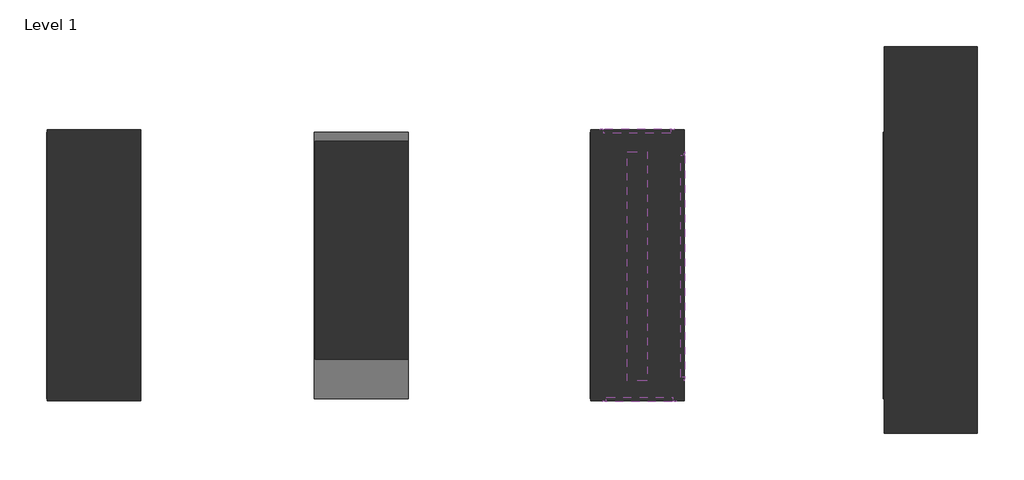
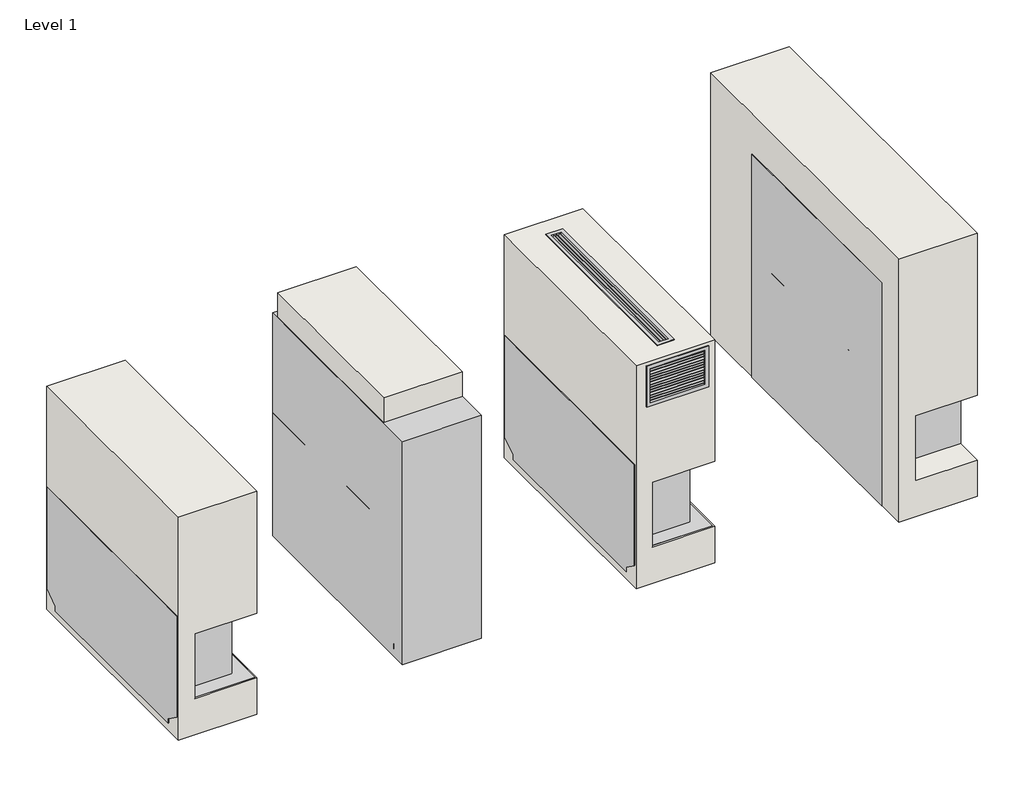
# One storey: 4 air terminals, 4 proxies, 4 walls.
"""IFC4 building model written with IfcOpenShell, lengths in millimetres."""

from ifc_helpers import new_model, si_unit, frame, origin, origin_with_axes, place, context, project, spatial, polyline, outline, extrude, faceted_brep, transform, mapped, element, save
from components import vent_3c922fcf, vent_1f9427f6, specialty_equipment_0dc5f05a, specialty_equipment_93f9bb94

model = new_model("IFC4")

# Units and contexts
model_context = context("Model", 3, world=origin())
ifc_project = project(units=[si_unit("LENGTHUNIT", "METRE", prefix="MILLI")], contexts=[model_context])

# Site, building, storey
site = spatial("IfcSite", under=ifc_project)
building = spatial("IfcBuilding", under=site)
storey = spatial("IfcBuildingStorey", under=building, Name="Level 1", Elevation=0.0)

# Air terminals
placement = place(None, origin())
vent_shape = vent_3c922fcf(model_context)
element("IfcAirTerminal", 1, ObjectType="Fire-Products_Fire-Protection_Regency-Fireplace_Ventilation-Grill : Vent", at=placement, inside=storey, context=model_context, shape_type="MappedRepresentation", body=[
    mapped(vent_shape, transform((-2434.4907065, 3478.5237344, 1600.0), x_axis=(0.0, 1.0, 0.0), y_axis=(-1.0, 0.0, 0.0), z_axis=(0.0, 0.0, 1.0))),
])
element("IfcAirTerminal", 2, ObjectType="Fire-Products_Fire-Protection_Regency-Fireplace_Ventilation-Grill : Vent", at=placement, inside=storey, context=model_context, shape_type="MappedRepresentation", body=[
    mapped(vent_shape, transform((-2167.7907065, 3478.5237344, 1516.1), x_axis=(0.0, 1.0, 0.0), y_axis=(0.0, 0.0, 1.0), z_axis=(1.0, 0.0, 0.0))),
])
vent_2_shape = vent_1f9427f6(model_context)
element("IfcAirTerminal", 3, ObjectType="Fire-Products_Fire-Protection_Regency-Fireplace_Ventilation-Grill : Vent", at=placement, inside=storey, context=model_context, shape_type="MappedRepresentation", body=[
    mapped(vent_2_shape, transform((-2421.7907065, 2708.8237344, 1427.2), x_axis=(1.0, 0.0, 0.0), y_axis=(0.0, 0.0, 1.0), z_axis=(0.0, -1.0, 0.0))),
])
element("IfcAirTerminal", 4, ObjectType="Fire-Products_Fire-Protection_Regency-Fireplace_Ventilation-Grill : Vent", at=placement, inside=storey, context=model_context, shape_type="MappedRepresentation", body=[
    mapped(vent_2_shape, transform((-2434.4907065, 4258.2237344, 1427.2), x_axis=(1.0, 0.0, 0.0), y_axis=(0.0, 0.0, -1.0), z_axis=(0.0, 1.0, 0.0))),
])

# Proxies
specialty_equipment_shape = specialty_equipment_0dc5f05a(model_context)
element("IfcBuildingElementProxy", 5, Name="HVAC_Fireplaces_Regency-Fireplace_San-Francisco-gas-fireplace_CB50E : CB50E-NG1", ObjectType="HVAC_Fireplaces_Regency-Fireplace_San-Francisco-gas-fireplace_CB50E : CB50E-NG1", at=placement, inside=storey, context=model_context, shape_type="MappedRepresentation", body=[
    mapped(specialty_equipment_shape, transform((-5273.4487065, 3483.5237344, 0.0), x_axis=(0.0, 1.0, 0.0), y_axis=(0.0, 0.0, 1.0), z_axis=(1.0, 0.0, 0.0))),
])
element("IfcBuildingElementProxy", 6, Name="HVAC_Fireplaces_Regency-Fireplace_San-Francisco-gas-fireplace_CB50E : CB50E-NG1", ObjectType="HVAC_Fireplaces_Regency-Fireplace_San-Francisco-gas-fireplace_CB50E : CB50E-NG1", at=placement, inside=storey, context=model_context, shape_type="MappedRepresentation", body=[
    mapped(specialty_equipment_shape, transform((-2167.7907065, 3483.5237344, 0.0), x_axis=(0.0, 1.0, 0.0), y_axis=(0.0, 0.0, 1.0), z_axis=(1.0, 0.0, 0.0))),
])
specialty_equipment_2_shape = specialty_equipment_93f9bb94(model_context)
element("IfcBuildingElementProxy", 7, Name="HVAC_Fireplaces_Regency-Fireplace_San-Francisco-gas-fireplace_CB50E : CB50E-NG1", ObjectType="HVAC_Fireplaces_Regency-Fireplace_San-Francisco-gas-fireplace_CB50E : CB50E-NG1", at=placement, inside=storey, context=model_context, shape_type="MappedRepresentation", body=[
    mapped(specialty_equipment_2_shape, transform((-3742.5533578, 3483.5237344, 0.0), x_axis=(0.0, 1.0, 0.0), y_axis=(0.0, 0.0, 1.0), z_axis=(1.0, 0.0, 0.0))),
])
element("IfcBuildingElementProxy", 8, Name="HVAC_Fireplaces_Regency-Fireplace_San-Francisco-gas-fireplace_CB50E : CB50E-NG1", ObjectType="HVAC_Fireplaces_Regency-Fireplace_San-Francisco-gas-fireplace_CB50E : CB50E-NG1", at=placement, inside=storey, context=model_context, shape_type="MappedRepresentation", body=[
    mapped(specialty_equipment_2_shape, transform((-490.8827065, 3483.5237344, 0.0), x_axis=(0.0, 1.0, 0.0), y_axis=(0.0, 0.0, 1.0), z_axis=(1.0, 0.0, 0.0))),
])

# Walls
element("IfcWall", 9, ObjectType="Generic - 30\"", at=placement, inside=storey, context=model_context, shape_type="Brep", body=[
    faceted_brep([(-5806.8487065, 4258.2237344, 0.0), (-5806.8487065, 2708.8237344, 0.0), (-5806.8487065, 2708.8237344, 1600.0), (-5806.8487065, 4258.2237344, 1600.0), (-5273.4487065, 2708.8237344, 0.0), (-5273.4487065, 4258.2237344, 0.0), (-5273.4487065, 4258.2237344, 260.0), (-5273.4487065, 2708.8237344, 260.0), (-5273.4487065, 4258.2237344, 1600.0), (-5273.4487065, 2708.8237344, 1600.0), (-5273.4487065, 2708.8237344, 726.0), (-5273.4487065, 4258.2237344, 726.0), (-5278.4487065, 2721.5237344, 0.0), (-5278.4487065, 4245.5237344, 0.0), (-5793.4487065, 4245.5237344, 0.0), (-5793.4487065, 2721.5237344, 0.0), (-5696.4487065, 2708.8237344, 260.0), (-5696.4487065, 2708.8237344, 726.0), (-5696.4487065, 4258.2237344, 726.0), (-5696.4487065, 4258.2237344, 260.0), (-5278.4487065, 4245.5237344, 260.0), (-5278.4487065, 2721.5237344, 260.0), (-5696.4487065, 2721.5237344, 260.0), (-5696.4487065, 4245.5237344, 260.0), (-5278.4487065, 2721.5237344, 940.0), (-5278.4487065, 4245.5237344, 940.0), (-5278.4487065, 4245.5237344, 726.0), (-5278.4487065, 2721.5237344, 726.0), (-5793.4487065, 4245.5237344, 940.0), (-5793.4487065, 2721.5237344, 940.0), (-5696.4487065, 2721.5237344, 726.0), (-5696.4487065, 4245.5237344, 726.0)], [[[0, 1, 2, 3]], [[4, 5, 6, 7]], [[8, 9, 10, 11]], [[1, 0, 5, 4], [12, 13, 14, 15]], [[2, 1, 4, 7, 16, 17, 10, 9]], [[3, 2, 9, 8]], [[0, 3, 8, 11, 18, 19, 6, 5]], [[20, 21, 22, 16, 7, 6, 19, 23]], [[12, 21, 20, 13]], [[24, 25, 26, 27]], [[28, 29, 15, 14]], [[25, 24, 29, 28]], [[21, 12, 15, 29, 24, 27, 30, 22]], [[13, 20, 23, 31, 26, 25, 28, 14]], [[22, 30, 17, 16]], [[31, 23, 19, 18]], [[27, 26, 31, 18, 11, 10, 17, 30]]]),
])
element("IfcWall", 10, ObjectType="Generic - 30\"", at=placement, inside=storey, context=model_context, shape_type="Brep", body=[
    faceted_brep([(-2701.1907065, 4258.2237344, 0.0), (-2701.1907065, 2708.8237344, 0.0), (-2701.1907065, 2708.8237344, 1600.0), (-2701.1907065, 4258.2237344, 1600.0), (-2167.7907065, 2708.8237344, 0.0), (-2167.7907065, 4258.2237344, 0.0), (-2167.7907065, 4258.2237344, 260.0), (-2167.7907065, 2708.8237344, 260.0), (-2167.7907065, 4258.2237344, 1600.0), (-2167.7907065, 2708.8237344, 1600.0), (-2167.7907065, 2708.8237344, 726.0), (-2167.7907065, 4258.2237344, 726.0), (-2167.7907065, 2843.5237344, 1554.2), (-2167.7907065, 4113.5237344, 1554.2), (-2167.7907065, 4113.5237344, 1478.0), (-2167.7907065, 2843.5237344, 1478.0), (-2172.7907065, 2721.5237344, 0.0), (-2172.7907065, 4245.5237344, 0.0), (-2687.7907065, 4245.5237344, 0.0), (-2687.7907065, 2721.5237344, 0.0), (-2590.7907065, 2708.8237344, 260.0), (-2590.7907065, 2708.8237344, 726.0), (-2612.2907065, 2708.8237344, 1554.2), (-2231.2907065, 2708.8237344, 1554.2), (-2231.2907065, 2708.8237344, 1300.2), (-2612.2907065, 2708.8237344, 1300.2), (-2472.5907065, 2843.5237344, 1600.0), (-2472.5907065, 4113.5237344, 1600.0), (-2396.3907065, 4113.5237344, 1600.0), (-2396.3907065, 2843.5237344, 1600.0), (-2590.7907065, 4258.2237344, 726.0), (-2590.7907065, 4258.2237344, 260.0), (-2624.9907065, 4258.2237344, 1300.2), (-2243.9907065, 4258.2237344, 1300.2), (-2243.9907065, 4258.2237344, 1554.2), (-2624.9907065, 4258.2237344, 1554.2), (-2172.7907065, 4245.5237344, 260.0), (-2172.7907065, 2721.5237344, 260.0), (-2590.7907065, 2721.5237344, 260.0), (-2590.7907065, 4245.5237344, 260.0), (-2172.7907065, 4245.5237344, 940.0), (-2172.7907065, 4245.5237344, 726.0), (-2172.7907065, 2721.5237344, 726.0), (-2172.7907065, 2721.5237344, 940.0), (-2687.7907065, 4245.5237344, 940.0), (-2687.7907065, 2721.5237344, 940.0), (-2590.7907065, 2721.5237344, 726.0), (-2590.7907065, 4245.5237344, 726.0), (-2612.2907065, 3008.8237344, 1554.2), (-2612.2907065, 3008.8237344, 1300.2), (-2472.5907065, 3008.8237344, 1300.2), (-2472.5907065, 3008.8237344, 1554.2), (-2396.3907065, 3008.8237344, 1300.2), (-2231.2907065, 3008.8237344, 1300.2), (-2231.2907065, 3008.8237344, 1478.0), (-2396.3907065, 3008.8237344, 1478.0), (-2396.3907065, 2843.5237344, 1300.2), (-2472.5907065, 2843.5237344, 1300.2), (-2231.2907065, 2843.5237344, 1554.2), (-2231.2907065, 2843.5237344, 1478.0), (-2472.5907065, 4113.5237344, 1300.0), (-2472.5907065, 2843.5237344, 1300.0), (-2396.3907065, 2843.5237344, 1300.0), (-2396.3907065, 4113.5237344, 1300.0), (-2472.5907065, 4113.5237344, 1300.2), (-2472.5907065, 3958.2237344, 1300.2), (-2472.5907065, 3958.2237344, 1554.2), (-2472.5907065, 4113.5237344, 1554.2), (-2472.5907065, 2843.5237344, 1554.2), (-2396.3907065, 2843.5237344, 1554.2), (-2396.3907065, 3958.2237344, 1478.0), (-2396.3907065, 3958.2237344, 1300.2), (-2396.3907065, 4113.5237344, 1300.2), (-2396.3907065, 4113.5237344, 1554.2), (-2243.9907065, 4113.5237344, 1554.2), (-2243.9907065, 4113.5237344, 1478.0), (-2624.9907065, 3958.2237344, 1554.2), (-2243.9907065, 3958.2237344, 1478.0), (-2624.9907065, 3958.2237344, 1300.2), (-2243.9907065, 3958.2237344, 1300.2)], [[[0, 1, 2, 3]], [[4, 5, 6, 7]], [[8, 9, 10, 11], [12, 13, 14, 15]], [[1, 0, 5, 4], [16, 17, 18, 19]], [[2, 1, 4, 7, 20, 21, 10, 9], [22, 23, 24, 25]], [[3, 2, 9, 8], [26, 27, 28, 29]], [[0, 3, 8, 11, 30, 31, 6, 5], [32, 33, 34, 35]], [[36, 37, 38, 20, 7, 6, 31, 39]], [[37, 36, 17, 16]], [[40, 41, 42, 43]], [[44, 45, 19, 18]], [[40, 43, 45, 44]], [[46, 38, 37, 16, 19, 45, 43, 42]], [[47, 41, 40, 44, 18, 17, 36, 39]], [[38, 46, 21, 20]], [[47, 39, 31, 30]], [[41, 47, 30, 11, 10, 21, 46, 42]], [[48, 49, 50, 51]], [[52, 53, 54, 55]], [[25, 49, 48, 22]], [[49, 25, 24, 53, 52, 56, 57, 50]], [[53, 24, 23, 58, 59, 54]], [[60, 61, 62, 63]], [[61, 60, 64, 65, 66, 67, 27, 26, 68, 51, 50, 57]], [[62, 61, 57, 56]], [[26, 29, 69, 68]], [[12, 15, 59, 58]], [[63, 62, 56, 52, 55, 70, 71, 72]], [[29, 28, 73, 69]], [[60, 63, 72, 64]], [[28, 27, 67, 73]], [[14, 13, 74, 75]], [[22, 48, 51, 68, 69, 73, 67, 66, 76, 35, 34, 74, 13, 12, 58, 23]], [[15, 14, 75, 77, 70, 55, 54, 59]], [[78, 76, 66, 65]], [[79, 71, 70, 77]], [[32, 78, 65, 64, 72, 71, 79, 33]], [[76, 78, 32, 35]], [[33, 79, 77, 75, 74, 34]]]),
])
element("IfcWall", 11, ObjectType="Generic - 30\"", at=placement, inside=storey, context=model_context, shape_type="SweptSolid", body=[
    extrude(outline(polyline([(-3742.5533578, 4191.4633704), (-3742.5533578, 2946.8633704), (-3747.5533578, 2946.8633704), (-3747.5533578, 4191.4633704), (-3742.5533578, 4191.4633704)])), origin_with_axes(), (0.0, 0.0, 1.0), 260.0),
    extrude(outline(polyline([(1776.9956948, -4275.9533578), (0.0, -4275.9533578), (0.0, -4262.5533578), (940.0, -4262.5533578), (940.0, -3747.5533578), (726.0, -3747.5533578), (726.0, -3742.5533578), (1776.9956948, -3742.5533578), (1776.9956948, -4275.9533578)])), frame((0.0, 2946.8633704, 0.0), z_axis=(0.0, 1.0, 0.0), x_axis=(0.0, 0.0, 1.0)), (0.0, 0.0, 1.0), 1244.6),
])
element("IfcWall", 12, ObjectType="Generic - 30\"", at=placement, inside=storey, context=model_context, shape_type="Brep", body=[
    faceted_brep([(-1024.2827065, 4733.9237344, 0.0), (-1024.2827065, 2524.1237344, 0.0), (-1024.2827065, 2524.1237344, 1887.6484989), (-1024.2827065, 4733.9237344, 1887.6484989), (-490.8827065, 2524.1237344, 0.0), (-490.8827065, 4733.9237344, 0.0), (-490.8827065, 4733.9237344, 1887.6484989), (-490.8827065, 2524.1237344, 1887.6484989), (-490.8827065, 2524.1237344, 726.0), (-490.8827065, 4480.5237344, 726.0), (-490.8827065, 4480.5237344, 260.0), (-490.8827065, 2524.1237344, 260.0), (-495.8827065, 2721.5237344, 0.0), (-495.8827065, 4245.5237344, 0.0), (-1010.8827065, 4245.5237344, 0.0), (-1010.8827065, 2721.5237344, 0.0), (-913.8827065, 2524.1237344, 260.0), (-913.8827065, 2524.1237344, 726.0), (-495.8827065, 4245.5237344, 260.0), (-495.8827065, 2721.5237344, 260.0), (-913.8827065, 2721.5237344, 260.0), (-913.8827065, 4480.5237344, 260.0), (-913.8827065, 4245.5237344, 260.0), (-495.8827065, 2721.5237344, 940.0), (-495.8827065, 4245.5237344, 940.0), (-495.8827065, 4245.5237344, 726.0), (-495.8827065, 2721.5237344, 726.0), (-1010.8827065, 4245.5237344, 940.0), (-1010.8827065, 2721.5237344, 940.0), (-913.8827065, 2721.5237344, 726.0), (-913.8827065, 4245.5237344, 726.0), (-913.8827065, 4480.5237344, 726.0)], [[[0, 1, 2, 3]], [[4, 5, 6, 7, 8, 9, 10, 11]], [[1, 0, 5, 4], [12, 13, 14, 15]], [[2, 1, 4, 11, 16, 17, 8, 7]], [[3, 2, 7, 6]], [[0, 3, 6, 5]], [[18, 19, 20, 16, 11, 10, 21, 22]], [[12, 19, 18, 13]], [[23, 24, 25, 26]], [[27, 28, 15, 14]], [[24, 23, 28, 27]], [[19, 12, 15, 28, 23, 26, 29, 20]], [[13, 18, 22, 30, 25, 24, 27, 14]], [[20, 29, 17, 16]], [[30, 22, 21, 31]], [[26, 25, 30, 31, 9, 8, 17, 29]], [[31, 21, 10, 9]]]),
])

save(model, "model.ifc")
